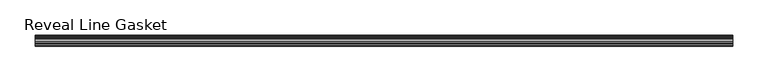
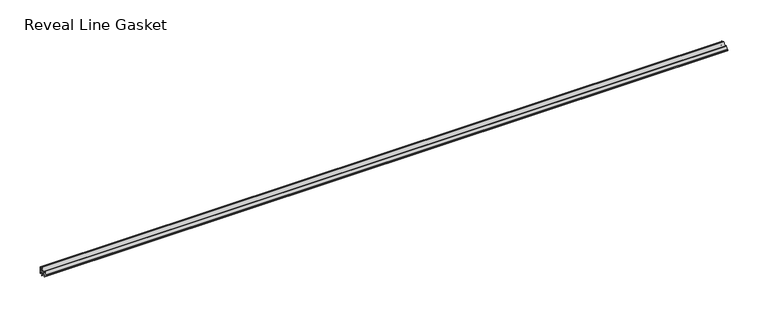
"""IFC4 building model written with IfcOpenShell, lengths in millimetres: proxy geometry, Accessories-Teknion-FHGR-AI_Healthcare-Reveal_Line_Gasket(Horizontal)-R2022 : Reveal Line Gasket."""

from ifc_helpers import new_model, si_unit, point, frame, frame_2d, origin, place, context, project, spatial, polyline, circle_curve, trimmed, segment, composite_curve, outline, extrude, source, transform, mapped, element, save


def reveal_line_gasket_db49fd7f(model_context):
    return source(origin(), model_context, "Body", "SweptSolid", [
        extrude(outline(composite_curve([segment(polyline([(7.6326998, 1603.2), (7.6326998, 1597.2), (7.4091917, 1596.2445073), (6.8813059, 1595.3115316)]), True, "CONTINUOUS"), segment(trimmed(circle_curve(frame_2d((6.5243141, 1595.5135207)), 0.4101739), [point((6.8813059, 1595.3115316))], [point((6.1246704, 1595.6058653))], False, "CARTESIAN"), True, "CONTINUOUS"), segment(polyline([(6.1246704, 1595.6058653), (6.3626997, 1597.3020914), (6.3626997, 1599.3345473)]), True, "CONTINUOUS"), segment(trimmed(circle_curve(frame_2d((5.6959605, 1598.9180742)), 0.786124), [point((6.3626997, 1599.3345473))], [point((5.0926996, 1599.422125))], True, "CARTESIAN"), True, "CONTINUOUS"), segment(polyline([(5.0926996, 1599.422125), (0.7492996, 1599.422125), (3.7293824, 1594.2604705)]), True, "CONTINUOUS"), segment(trimmed(circle_curve(frame_2d((3.3132479, 1594.1950239)), 0.4212495), [point((3.7293824, 1594.2604705))], [point((3.0485022, 1593.8673642))], False, "CARTESIAN"), True, "CONTINUOUS"), segment(polyline([(3.0485022, 1593.8673642), (-0.5742594, 1599.422125), (-4.8262978, 1599.422125), (-3.1660374, 1596.5464703)]), True, "CONTINUOUS"), segment(trimmed(circle_curve(frame_2d((-3.5978728, 1596.4881145)), 0.4357605), [point((-3.1660374, 1596.5464703))], [point((-3.864328, 1596.1433119))], False, "CARTESIAN"), True, "CONTINUOUS"), segment(polyline([(-3.864328, 1596.1433119), (-6.1944059, 1599.422125), (-7.6326998, 1599.422125), (-7.6326998, 1600.977875), (-6.1944059, 1600.977875), (-3.864328, 1604.2566881)]), True, "CONTINUOUS"), segment(trimmed(circle_curve(frame_2d((-3.5978728, 1603.9118855)), 0.4357605), [point((-3.864328, 1604.2566881))], [point((-3.1660374, 1603.8535297))], False, "CARTESIAN"), True, "CONTINUOUS"), segment(polyline([(-3.1660374, 1603.8535297), (-4.8262978, 1600.977875), (-0.5742594, 1600.977875), (3.0485022, 1606.5326358)]), True, "CONTINUOUS"), segment(trimmed(circle_curve(frame_2d((3.3132479, 1606.2049761)), 0.4212495), [point((3.0485022, 1606.5326358))], [point((3.7293824, 1606.1395295))], False, "CARTESIAN"), True, "CONTINUOUS"), segment(polyline([(3.7293824, 1606.1395295), (0.7492996, 1600.977875), (5.0926996, 1600.977875)]), True, "CONTINUOUS"), segment(trimmed(circle_curve(frame_2d((5.6959605, 1601.4819258)), 0.786124), [point((5.0926996, 1600.977875))], [point((6.3626997, 1601.0654527))], True, "CARTESIAN"), True, "CONTINUOUS"), segment(polyline([(6.3626997, 1601.0654527), (6.3626997, 1603.0979086), (6.1246704, 1604.7941347)]), True, "CONTINUOUS"), segment(trimmed(circle_curve(frame_2d((6.5243141, 1604.8864793)), 0.4101739), [point((6.1246704, 1604.7941347))], [point((6.8813059, 1605.0884684))], False, "CARTESIAN"), True, "CONTINUOUS"), segment(polyline([(6.8813059, 1605.0884684), (7.4091917, 1604.1554927), (7.6326998, 1603.2)]), True, "CONTINUOUS")], self_intersect=False)), frame((-491.5173792, 0.0, 0.0), z_axis=(1.0, 0.0, 0.0), x_axis=(0.0, 1.0, 0.0)), (0.0, 0.0, 1.0), 983.0347583),
    ])


if __name__ == "__main__":
    model = new_model("IFC4")
    model_context = context("Model", 3, world=origin())
    ifc_project = project(units=[si_unit("LENGTHUNIT", "METRE", prefix="MILLI")], contexts=[model_context])
    site = spatial("IfcSite", under=ifc_project)
    building = spatial("IfcBuilding", under=site)
    placement = place(None, origin())
    reveal_line_gasket_shape = reveal_line_gasket_db49fd7f(model_context)
    element("IfcBuildingElementProxy", 1, Name="Accessories-Teknion-FHGR-AI_Healthcare-Reveal_Line_Gasket(Horizontal)-R2022 : Reveal Line Gasket", ObjectType="Accessories-Teknion-FHGR-AI_Healthcare-Reveal_Line_Gasket(Horizontal)-R2022 : Reveal Line Gasket", at=placement, inside=building, context=model_context, shape_type="MappedRepresentation", body=[
        mapped(reveal_line_gasket_shape, transform((0.0, 0.0, 0.0), x_axis=(1.0, 0.0, 0.0), y_axis=(0.0, 1.0, 0.0), z_axis=(0.0, 0.0, 1.0))),
    ])
    save(model, "model.ifc")
